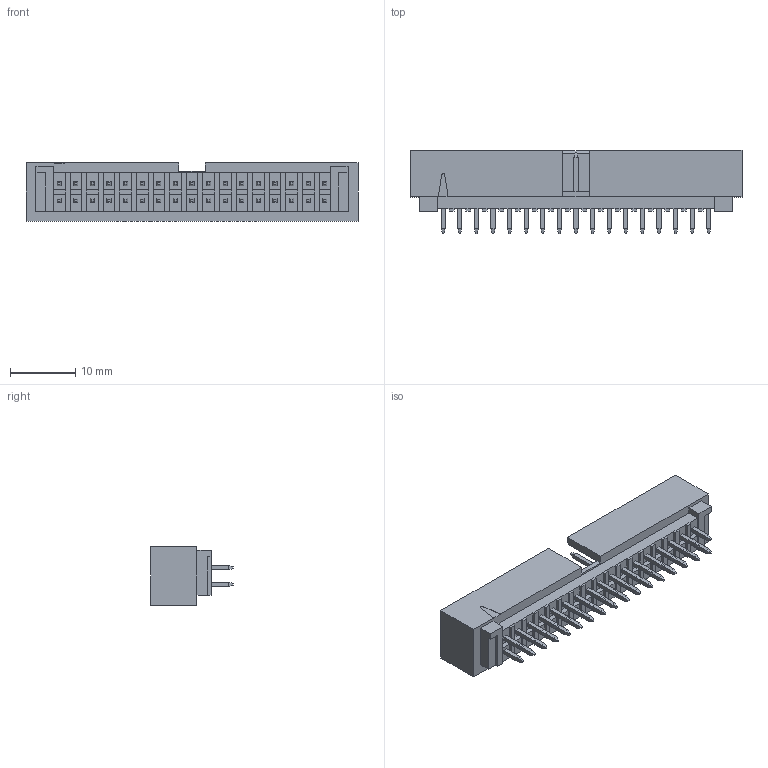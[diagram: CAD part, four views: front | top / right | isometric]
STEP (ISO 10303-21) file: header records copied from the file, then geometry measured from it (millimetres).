
FILE_DESCRIPTION((''),'2;1');
FILE_NAME('702463404','2014-07-23T',('me'),(''),'PRO/ENGINEER BY PARAMETRIC TECHNOLOGY CORPORATION, 2011490','PRO/ENGINEER BY PARAMETRIC TECHNOLOGY CORPORATION, 2011490','');
FILE_SCHEMA(('CONFIG_CONTROL_DESIGN'));
Length unit declared in the file: millimetre
Products named in the file (1): 702463404
Bounding box: 50.8 x 12.7 x 8.89 mm (x, y, z)
Volume: 1851.9 mm3; surface area: 3582.2 mm2
Topology: 1 solids, 1 shells, 790 faces, 1951 edges, 1200 vertices
Faces by surface type: plane 785, cylinder 5
Entity records: 22489 total; most frequent: CARTESIAN_POINT 3911, ORIENTED_EDGE 3766, DIRECTION 3596, EDGE_CURVE 1883, VECTOR 1866, LINE 1866, VERTEX_POINT 1132, AXIS2_PLACEMENT_3D 865
